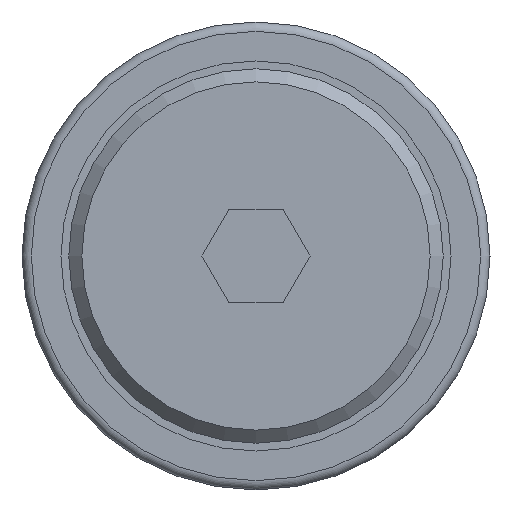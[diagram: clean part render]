
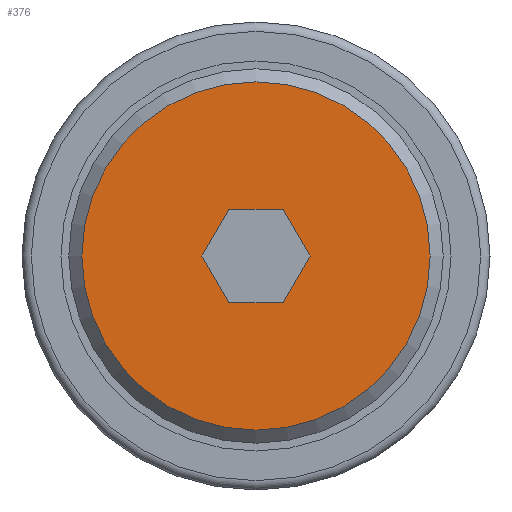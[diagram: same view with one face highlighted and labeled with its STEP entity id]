
A CAD part, left-side view. The second image highlights one B-rep face of the part: STEP entity #376.
In plain terms, the highlighted planar face has unit normal (-1, 0, 0).
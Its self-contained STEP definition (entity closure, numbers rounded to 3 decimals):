
#22=FACE_BOUND('',#108,.T.);
#30=CIRCLE('',#409,3.72);
#77=FACE_OUTER_BOUND('',#107,.T.);
#107=EDGE_LOOP('',(#331));
#108=EDGE_LOOP('',(#332,#333,#334,#335,#336,#337));
#109=LINE('',#571,#136);
#113=LINE('',#579,#140);
#116=LINE('',#585,#143);
#119=LINE('',#591,#146);
#122=LINE('',#597,#149);
#125=LINE('',#602,#152);
#136=VECTOR('',#450,10.);
#140=VECTOR('',#456,10.);
#143=VECTOR('',#461,10.);
#146=VECTOR('',#466,10.);
#149=VECTOR('',#471,10.);
#152=VECTOR('',#476,10.);
#163=VERTEX_POINT('',#569);
#164=VERTEX_POINT('',#570);
#167=VERTEX_POINT('',#578);
#169=VERTEX_POINT('',#584);
#171=VERTEX_POINT('',#590);
#173=VERTEX_POINT('',#596);
#176=VERTEX_POINT('',#608);
#194=EDGE_CURVE('',#163,#164,#109,.T.);
#198=EDGE_CURVE('',#167,#163,#113,.T.);
#201=EDGE_CURVE('',#169,#167,#116,.T.);
#204=EDGE_CURVE('',#171,#169,#119,.T.);
#207=EDGE_CURVE('',#173,#171,#122,.T.);
#210=EDGE_CURVE('',#164,#173,#125,.T.);
#214=EDGE_CURVE('',#176,#176,#30,.T.);
#331=ORIENTED_EDGE('',*,*,#214,.F.);
#332=ORIENTED_EDGE('',*,*,#194,.T.);
#333=ORIENTED_EDGE('',*,*,#210,.T.);
#334=ORIENTED_EDGE('',*,*,#207,.T.);
#335=ORIENTED_EDGE('',*,*,#204,.T.);
#336=ORIENTED_EDGE('',*,*,#201,.T.);
#337=ORIENTED_EDGE('',*,*,#198,.T.);
#351=PLANE('',#445);
#376=ADVANCED_FACE('',(#77,#22),#351,.T.);
#409=AXIS2_PLACEMENT_3D('',#610,#485,#486);
#445=AXIS2_PLACEMENT_3D('',#671,#565,#566);
#450=DIRECTION('',(0.,-1.,0.));
#456=DIRECTION('',(0.,-0.5,0.866));
#461=DIRECTION('',(0.,0.5,0.866));
#466=DIRECTION('',(0.,1.,0.));
#471=DIRECTION('',(0.,0.5,-0.866));
#476=DIRECTION('',(0.,-0.5,-0.866));
#485=DIRECTION('center_axis',(1.,0.,0.));
#486=DIRECTION('ref_axis',(0.,0.,-1.));
#565=DIRECTION('center_axis',(-1.,0.,0.));
#566=DIRECTION('ref_axis',(0.,0.,1.));
#569=CARTESIAN_POINT('',(0.,0.577,1.));
#570=CARTESIAN_POINT('',(0.,-0.577,1.));
#571=CARTESIAN_POINT('',(0.,2.149,1.));
#578=CARTESIAN_POINT('',(0.,1.155,0.));
#579=CARTESIAN_POINT('',(0.,1.475,-0.555));
#584=CARTESIAN_POINT('',(0.,0.577,-1.));
#585=CARTESIAN_POINT('',(0.,1.187,0.055));
#590=CARTESIAN_POINT('',(0.,-0.577,-1.));
#591=CARTESIAN_POINT('',(0.,1.571,-1.));
#596=CARTESIAN_POINT('',(0.,-1.155,0.));
#597=CARTESIAN_POINT('',(0.,-0.545,-1.055));
#602=CARTESIAN_POINT('',(0.,-0.257,1.555));
#608=CARTESIAN_POINT('',(0.,-3.72,0.));
#610=CARTESIAN_POINT('Origin',(0.,0.,0.));
#671=CARTESIAN_POINT('Origin',(0.,3.72,0.));
